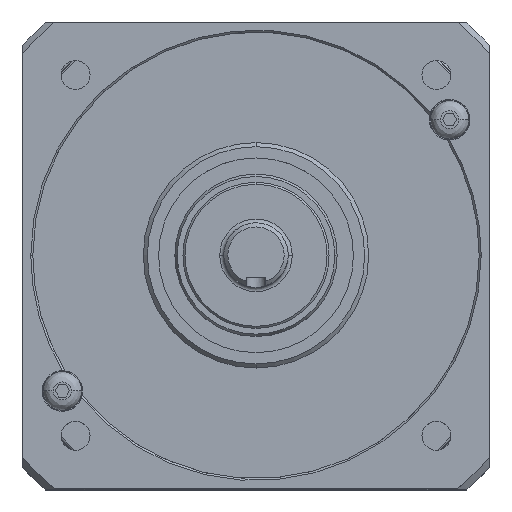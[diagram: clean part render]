
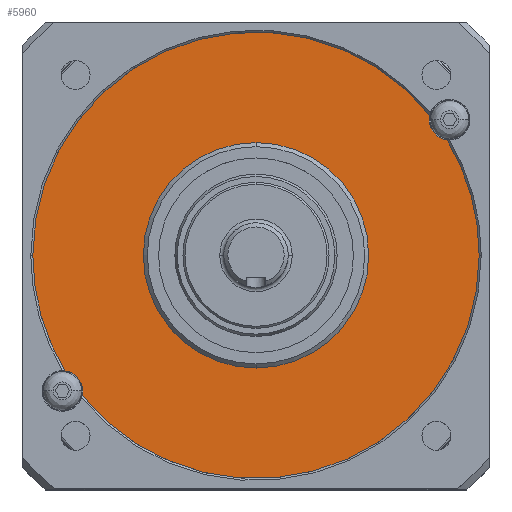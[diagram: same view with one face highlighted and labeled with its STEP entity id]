
A CAD part, top view. The second image highlights one B-rep face of the part: STEP entity #5960.
In plain terms, the highlighted planar face has unit normal (0, 0, 1).
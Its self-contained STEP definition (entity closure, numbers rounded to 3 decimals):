
#5697=CARTESIAN_POINT('',(0.,0.,77.899));
#5698=DIRECTION('',(0.,0.,-1.));
#5699=DIRECTION('',(0.,1.,0.));
#5700=AXIS2_PLACEMENT_3D('',#5697,#5698,#5699);
#5702=CARTESIAN_POINT('',(0.,0.,77.899));
#5703=DIRECTION('',(0.,0.,-1.));
#5704=DIRECTION('',(0.,-1.,0.));
#5705=AXIS2_PLACEMENT_3D('',#5702,#5703,#5704);
#5716=CARTESIAN_POINT('',(0.,0.,77.899));
#5717=DIRECTION('',(0.,0.,1.));
#5718=DIRECTION('',(1.,0.,0.));
#5719=AXIS2_PLACEMENT_3D('',#5716,#5717,#5718);
#5734=CARTESIAN_POINT('',(0.,0.,77.899));
#5735=DIRECTION('',(0.,0.,1.));
#5736=DIRECTION('',(0.779,0.627,0.));
#5737=AXIS2_PLACEMENT_3D('',#5734,#5735,#5736);
#5748=CARTESIAN_POINT('',(0.,0.,77.899));
#5749=DIRECTION('',(0.,0.,1.));
#5750=DIRECTION('',(-1.,0.,0.));
#5751=AXIS2_PLACEMENT_3D('',#5748,#5749,#5750);
#5766=CARTESIAN_POINT('',(0.,0.,77.899));
#5767=DIRECTION('',(0.,0.,1.));
#5768=DIRECTION('',(-0.779,-0.627,0.));
#5769=AXIS2_PLACEMENT_3D('',#5766,#5767,#5768);
#5771=CARTESIAN_POINT('',(-47.716,-33.411,77.899));
#5772=DIRECTION('',(0.,0.,-1.));
#5773=DIRECTION('',(0.129,0.992,0.));
#5774=AXIS2_PLACEMENT_3D('',#5771,#5772,#5773);
#5781=CARTESIAN_POINT('',(47.716,33.411,77.899));
#5782=DIRECTION('',(0.,0.,-1.));
#5783=DIRECTION('',(-0.129,-0.992,0.));
#5784=AXIS2_PLACEMENT_3D('',#5781,#5782,#5783);
#5807=CARTESIAN_POINT('',(0.,27.775,77.899));
#5808=CARTESIAN_POINT('',(0.,-27.775,77.899));
#5809=VERTEX_POINT('',#5807);
#5810=VERTEX_POINT('',#5808);
#5811=CARTESIAN_POINT('',(55.,0.,77.899));
#5812=CARTESIAN_POINT('',(47.068,28.453,77.899));
#5813=VERTEX_POINT('',#5811);
#5814=VERTEX_POINT('',#5812);
#5815=CARTESIAN_POINT('',(42.835,34.498,77.899));
#5816=CARTESIAN_POINT('',(-55.,0.,77.899));
#5817=VERTEX_POINT('',#5815);
#5818=VERTEX_POINT('',#5816);
#5819=CARTESIAN_POINT('',(-47.068,-28.453,77.899));
#5820=VERTEX_POINT('',#5819);
#5821=CARTESIAN_POINT('',(-42.835,-34.498,77.899));
#5822=VERTEX_POINT('',#5821);
#5937=CARTESIAN_POINT('',(0.,0.,77.899));
#5938=DIRECTION('',(0.,0.,1.));
#5939=DIRECTION('',(0.,1.,0.));
#5940=AXIS2_PLACEMENT_3D('',#5937,#5938,#5939);
#5941=PLANE('',#5940);
#5943=ORIENTED_EDGE('',*,*,#5942,.F.);
#5945=ORIENTED_EDGE('',*,*,#5944,.F.);
#5947=ORIENTED_EDGE('',*,*,#5946,.F.);
#5949=ORIENTED_EDGE('',*,*,#5948,.F.);
#5951=ORIENTED_EDGE('',*,*,#5950,.F.);
#5953=ORIENTED_EDGE('',*,*,#5952,.F.);
#5954=EDGE_LOOP('',(#5943,#5945,#5947,#5949,#5951,#5953));
#5955=FACE_OUTER_BOUND('',#5954,.F.);
#5956=ORIENTED_EDGE('',*,*,#5931,.F.);
#5957=ORIENTED_EDGE('',*,*,#5917,.F.);
#5958=EDGE_LOOP('',(#5956,#5957));
#5959=FACE_BOUND('',#5958,.F.);
#5960=ADVANCED_FACE('',(#5955,#5959),#5941,.T.);
#5701=CIRCLE('',#5700,27.775);
#5706=CIRCLE('',#5705,27.775);
#5720=CIRCLE('',#5719,55.);
#5738=CIRCLE('',#5737,55.);
#5752=CIRCLE('',#5751,55.);
#5770=CIRCLE('',#5769,55.);
#5775=CIRCLE('',#5774,5.);
#5785=CIRCLE('',#5784,5.);
#5917=EDGE_CURVE('',#5810,#5809,#5706,.T.);
#5931=EDGE_CURVE('',#5809,#5810,#5701,.T.);
#5942=EDGE_CURVE('',#5813,#5814,#5720,.T.);
#5944=EDGE_CURVE('',#5822,#5813,#5770,.T.);
#5946=EDGE_CURVE('',#5820,#5822,#5775,.T.);
#5948=EDGE_CURVE('',#5818,#5820,#5752,.T.);
#5950=EDGE_CURVE('',#5817,#5818,#5738,.T.);
#5952=EDGE_CURVE('',#5814,#5817,#5785,.T.);
